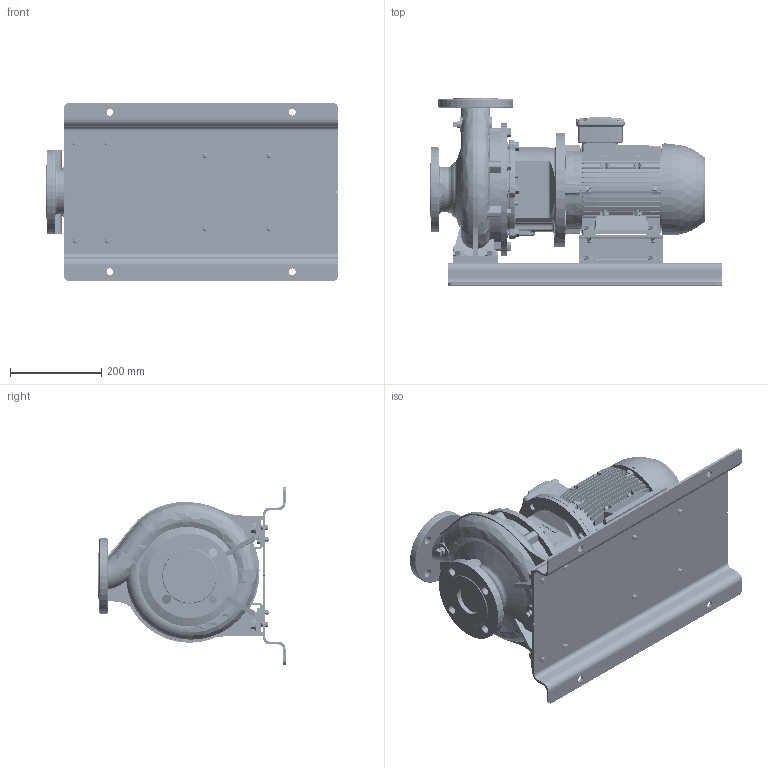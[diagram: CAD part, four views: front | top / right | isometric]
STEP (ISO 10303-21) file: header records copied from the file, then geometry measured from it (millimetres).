
FILE_DESCRIPTION (( 'STEP AP214' ), '1' );
FILE_NAME ('GSD4 50-200_2.2 & 3.0_(100L)_W21_BP.STEP', '2024-08-12T05:41:17', ( '' ), ( '' ), 'SwSTEP 2.0', 'SolidWorks 2019', '' );
FILE_SCHEMA (( 'AUTOMOTIVE_DESIGN' ));
Length unit declared in the file: millimetre
Products named in the file (10): 50-200-100L_______; Parametric bolt_SFT-A299B; Parametric Flat Washer_M10; 140 x 60 Side - 271472021; Parametric bolt_SFT-A253B; Parametric Flat Washer_M12; Parametric bolt_SFT-A249B; GSD4 50-200_2.2 & 3.0_(100L)_W21_BP; 100L ALIE3_W21T_B35; N3S3 GSDA-332 F1-1832904-00
Assembly tree (29 placements, depth 2):
  GSD4 50-200_2.2 & 3.0_(100L)_W21_BP
    50-200-100L_______
    100L ALIE3_W21T_B35
    N3S3 GSDA-332 F1-1832904-00
    140 x 60 Side - 271472021  x2
    Parametric bolt_SFT-A253B  x4
    Parametric bolt_SFT-A249B  x4
    Parametric bolt_SFT-A299B  x4
    Parametric Flat Washer_M10  x8
    Parametric Flat Washer_M12  x4
Bounding box: 640 x 410 x 390 mm (x, y, z)
Volume: 19699199.2 mm3; surface area: 2010466.5 mm2
Topology: 32 solids, 32 shells, 4391 faces, 11453 edges, 7373 vertices
Faces by surface type: plane 2409, cylinder 1196, torus 321, bspline 244, cone 203, sphere 18
Entity records: 182799 total; most frequent: CARTESIAN_POINT 89246, ORIENTED_EDGE 20228, DIRECTION 18121, EDGE_CURVE 10114, VERTEX_POINT 6517, VECTOR 6301, LINE 6301, AXIS2_PLACEMENT_3D 5910
